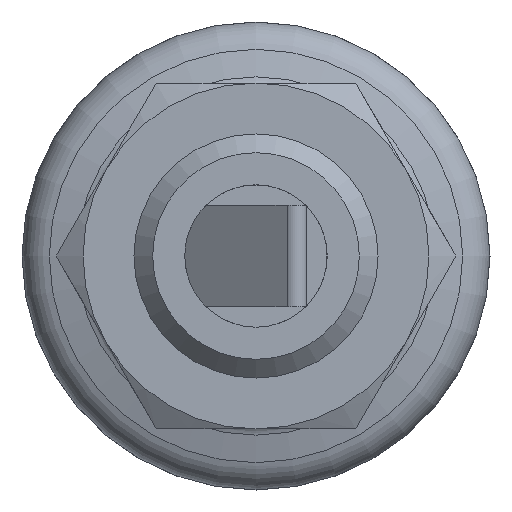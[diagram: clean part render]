
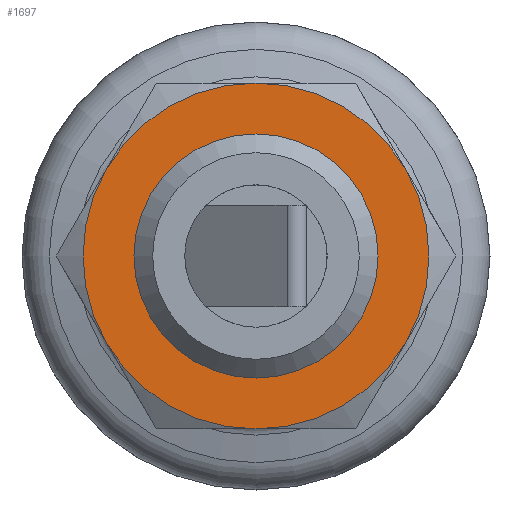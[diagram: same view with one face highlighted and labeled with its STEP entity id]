
A CAD part, front view. The second image highlights one B-rep face of the part: STEP entity #1697.
In plain terms, the highlighted planar face has unit normal (0, -1, 0).
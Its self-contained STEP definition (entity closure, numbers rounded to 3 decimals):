
#123=CIRCLE('',#1801,8.5);
#124=CIRCLE('',#1803,8.5);
#125=CIRCLE('',#1805,8.5);
#126=CIRCLE('',#1807,8.5);
#127=CIRCLE('',#1809,8.5);
#128=CIRCLE('',#1811,8.5);
#129=CIRCLE('',#1813,5.);
#226=ORIENTED_EDGE('',*,*,#515,.F.);
#227=ORIENTED_EDGE('',*,*,#510,.T.);
#228=ORIENTED_EDGE('',*,*,#508,.T.);
#229=ORIENTED_EDGE('',*,*,#504,.T.);
#230=ORIENTED_EDGE('',*,*,#501,.T.);
#231=ORIENTED_EDGE('',*,*,#499,.T.);
#232=ORIENTED_EDGE('',*,*,#513,.T.);
#499=EDGE_CURVE('',#640,#641,#123,.T.);
#501=EDGE_CURVE('',#643,#640,#124,.T.);
#504=EDGE_CURVE('',#645,#643,#125,.T.);
#508=EDGE_CURVE('',#647,#645,#126,.T.);
#510=EDGE_CURVE('',#649,#647,#127,.T.);
#513=EDGE_CURVE('',#641,#649,#128,.T.);
#515=EDGE_CURVE('',#651,#651,#129,.T.);
#640=VERTEX_POINT('',#2375);
#641=VERTEX_POINT('',#2380);
#643=VERTEX_POINT('',#2389);
#645=VERTEX_POINT('',#2401);
#647=VERTEX_POINT('',#2412);
#649=VERTEX_POINT('',#2425);
#651=VERTEX_POINT('',#2443);
#832=EDGE_LOOP('',(#226));
#833=EDGE_LOOP('',(#227,#228,#229,#230,#231,#232));
#954=FACE_BOUND('',#832,.T.);
#955=FACE_BOUND('',#833,.T.);
#1063=PLANE('',#1812);
#1697=ADVANCED_FACE('',(#954,#955),#1063,.F.);
#1801=AXIS2_PLACEMENT_3D('',#2381,#1986,#1987);
#1803=AXIS2_PLACEMENT_3D('',#2388,#1990,#1991);
#1805=AXIS2_PLACEMENT_3D('',#2400,#1994,#1995);
#1807=AXIS2_PLACEMENT_3D('',#2417,#1998,#1999);
#1809=AXIS2_PLACEMENT_3D('',#2424,#2002,#2003);
#1811=AXIS2_PLACEMENT_3D('',#2436,#2006,#2007);
#1812=AXIS2_PLACEMENT_3D('',#2441,#2008,#2009);
#1813=AXIS2_PLACEMENT_3D('',#2442,#2010,#2011);
#1986=DIRECTION('',(0.,-1.,0.));
#1987=DIRECTION('',(0.,0.,-1.));
#1990=DIRECTION('',(0.,-1.,0.));
#1991=DIRECTION('',(0.,0.,-1.));
#1994=DIRECTION('',(0.,-1.,0.));
#1995=DIRECTION('',(0.,0.,-1.));
#1998=DIRECTION('',(0.,-1.,0.));
#1999=DIRECTION('',(0.,0.,-1.));
#2002=DIRECTION('',(0.,-1.,0.));
#2003=DIRECTION('',(0.,0.,-1.));
#2006=DIRECTION('',(0.,-1.,0.));
#2007=DIRECTION('',(0.,0.,-1.));
#2008=DIRECTION('',(0.,1.,0.));
#2009=DIRECTION('',(0.,0.,1.));
#2010=DIRECTION('',(0.,-1.,0.));
#2011=DIRECTION('',(0.,0.,-1.));
#2375=CARTESIAN_POINT('',(-7.361,20.,4.25));
#2380=CARTESIAN_POINT('',(-7.361,20.,-4.25));
#2381=CARTESIAN_POINT('',(0.,20.,0.));
#2388=CARTESIAN_POINT('',(0.,20.,0.));
#2389=CARTESIAN_POINT('',(0.,20.,8.5));
#2400=CARTESIAN_POINT('',(0.,20.,0.));
#2401=CARTESIAN_POINT('',(7.361,20.,4.25));
#2412=CARTESIAN_POINT('',(7.361,20.,-4.25));
#2417=CARTESIAN_POINT('',(0.,20.,0.));
#2424=CARTESIAN_POINT('',(0.,20.,0.));
#2425=CARTESIAN_POINT('',(0.,20.,-8.5));
#2436=CARTESIAN_POINT('',(0.,20.,0.));
#2441=CARTESIAN_POINT('',(8.5,20.,0.));
#2442=CARTESIAN_POINT('',(0.,20.,0.));
#2443=CARTESIAN_POINT('',(0.,20.,-5.));
